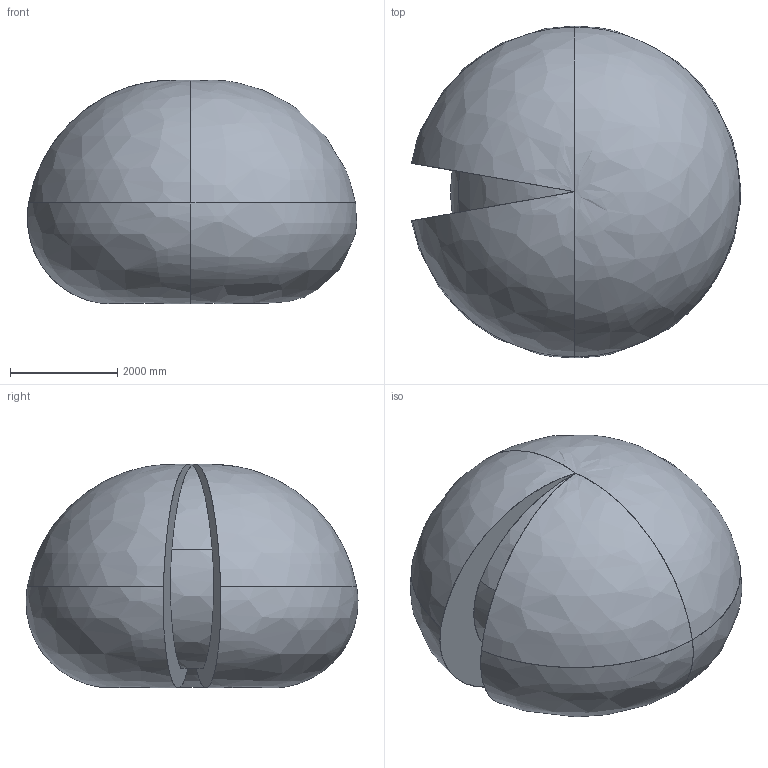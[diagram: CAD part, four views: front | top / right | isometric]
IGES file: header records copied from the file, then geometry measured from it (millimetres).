
Start section: SolidWorks IGES file using analytic representation for surfaces
Global section: file name: C:\DATA\SAP_DOC\LW\IRB 6730\IRB6730_210kg-310_OC_01_SW_J\Export\IRB6730_210kg-310_OC_01_IGES_J\IRB6730_210kg-310_OC_00_Working-space.igs; native system: SolidWorks 2024; preprocessor: SolidWorks 2024; author: SEJOVAS3; date: 260526.104155; units: millimetre
Bounding box: 6143.45 x 6194.16 x 4176.83 mm (x, y, z)
Surface area: 125701489.2 mm2 (no closed solid volume)
Topology: 0 solids, 0 shells, 22 faces, 480 edges, 472 vertices
Faces by surface type: bspline 22
